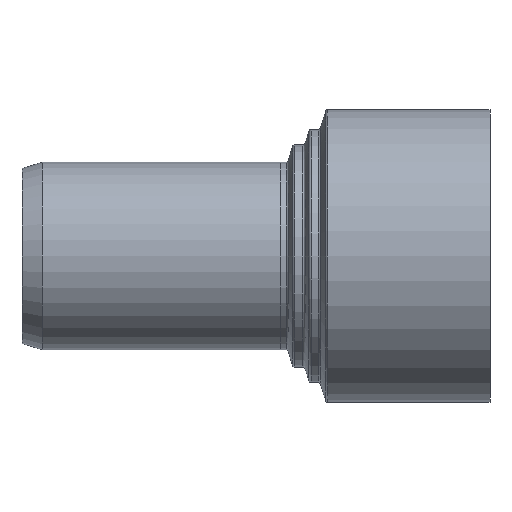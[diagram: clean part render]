
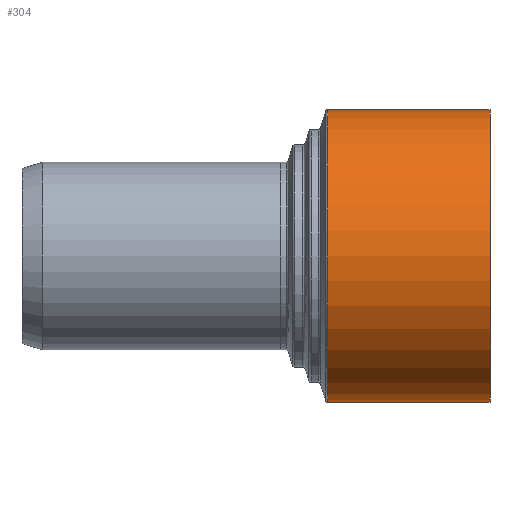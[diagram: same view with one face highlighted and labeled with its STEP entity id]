
A CAD part, front view. The second image highlights one B-rep face of the part: STEP entity #304.
In plain terms, the highlighted cylindrical face has radius 25.075 mm (diameter 50.15 mm), a full revolution.
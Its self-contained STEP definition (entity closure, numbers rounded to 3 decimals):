
#30=CYLINDRICAL_SURFACE($,#350,25.075);
#57=FACE_BOUND($,#122,.T.);
#84=FACE_OUTER_BOUND($,#121,.T.);
#121=EDGE_LOOP($,(#241));
#122=EDGE_LOOP($,(#242));
#153=CIRCLE($,#349,25.075);
#154=CIRCLE($,#351,25.075);
#177=VERTEX_POINT($,#524);
#178=VERTEX_POINT($,#527);
#201=EDGE_CURVE($,#177,#177,#153,.T.);
#202=EDGE_CURVE($,#178,#178,#154,.T.);
#241=ORIENTED_EDGE($,*,*,#201,.T.);
#242=ORIENTED_EDGE($,*,*,#202,.F.);
#304=ADVANCED_FACE($,(#84,#57),#30,.T.);
#349=AXIS2_PLACEMENT_3D($,#525,#435,#436);
#350=AXIS2_PLACEMENT_3D($,#526,#437,#438);
#351=AXIS2_PLACEMENT_3D($,#528,#439,#440);
#435=DIRECTION('center_axis',(1.,0.,0.));
#436=DIRECTION('ref_axis',(0.,1.,0.));
#437=DIRECTION('center_axis',(1.,0.,0.));
#438=DIRECTION('ref_axis',(0.,1.,0.));
#439=DIRECTION('center_axis',(1.,0.,0.));
#440=DIRECTION('ref_axis',(0.,1.,0.));
#524=CARTESIAN_POINT('',(8.09,25.075,0.));
#525=CARTESIAN_POINT('Origin',(8.09,0.,0.));
#526=CARTESIAN_POINT('Origin',(23.35,0.,0.));
#527=CARTESIAN_POINT('',(35.85,25.075,0.));
#528=CARTESIAN_POINT('Origin',(35.85,0.,0.));
